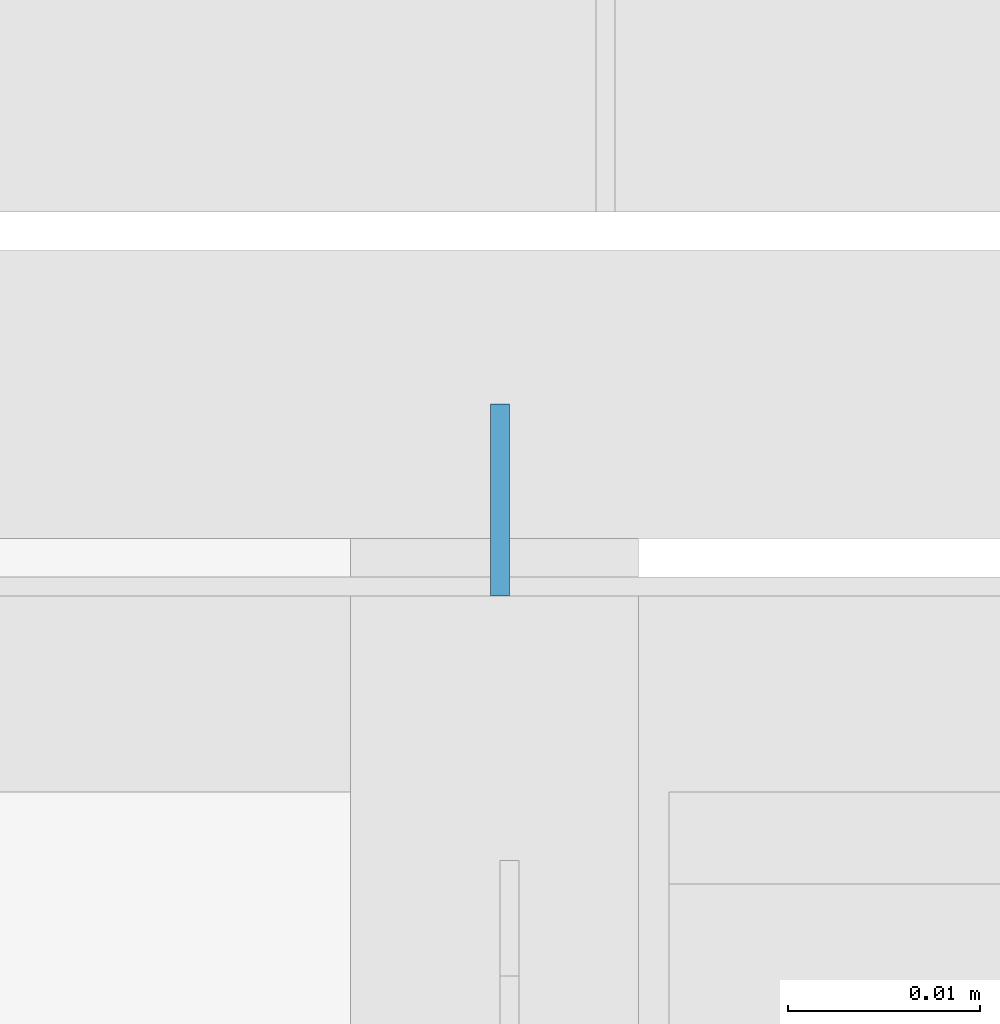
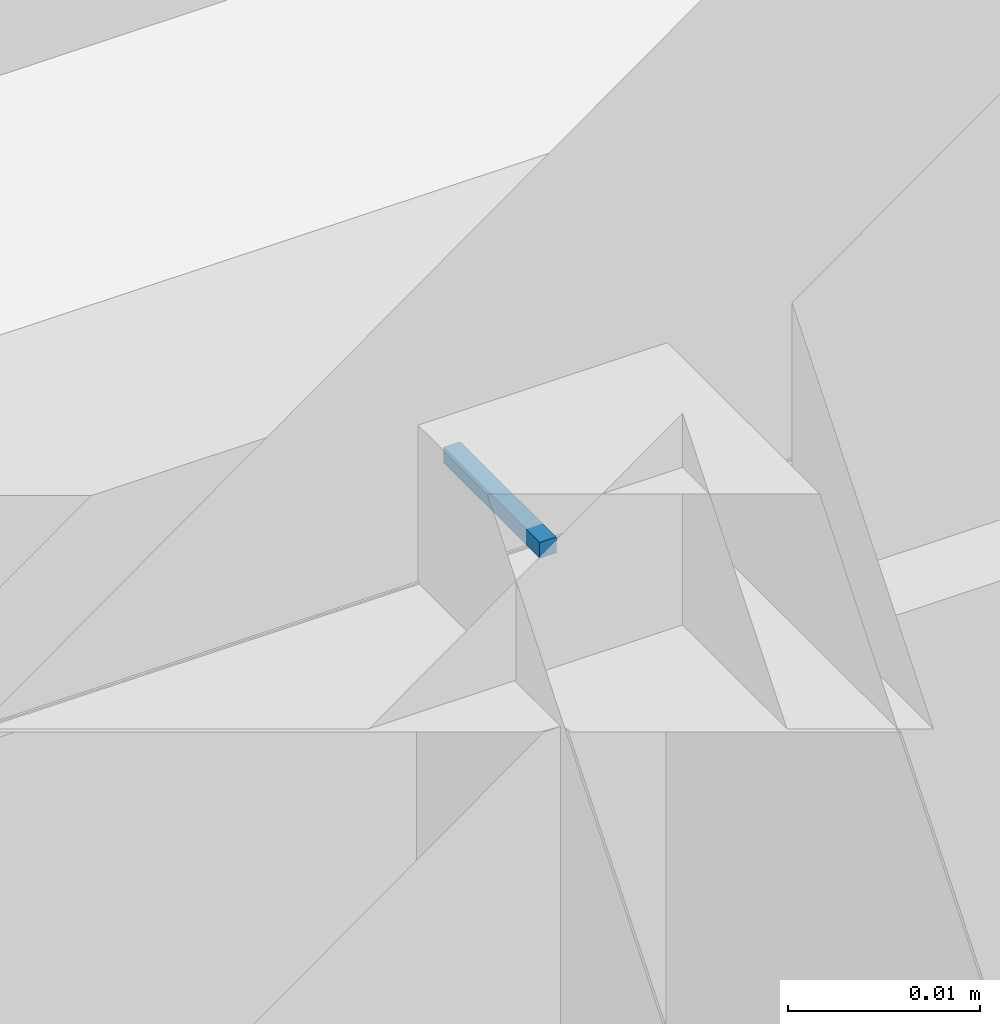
# One storey, part 70 of 186: 1 beam.
"""IFC4X3_ADD2 building model written with IfcOpenShell, lengths in millimetres."""

from ifc_helpers import new_model, si_unit, direction, frame, frame_2d, origin_with_axes, place, context, subcontext, project, spatial, rectangle, extrude, material, element, save


model = new_model("IFC4X3_ADD2")

# Units and contexts
model_context = context("Model", 3, precision=1e-05, world=origin_with_axes(), true_north=direction((0.0, 1.0)))
body_context = subcontext(model_context, "Body", "Model", "MODEL_VIEW")
ifc_project = project(units=[si_unit("LENGTHUNIT", "METRE", prefix="MILLI"), si_unit("AREAUNIT", "SQUARE_METRE"), si_unit("VOLUMEUNIT", "CUBIC_METRE"), si_unit("PLANEANGLEUNIT", "RADIAN"), si_unit("TIMEUNIT", "SECOND"), si_unit("MASSUNIT", "GRAM")], contexts=[model_context])

# Site, building, storey
site_placement = place(None, origin_with_axes())
site = spatial("IfcSite", under=ifc_project, at=site_placement, Name="Site", CompositionType="ELEMENT")
building_placement = place(site_placement, origin_with_axes())
building = spatial("IfcBuilding", under=site, at=building_placement, Name="IFC Building Story")
storey_placement = place(building_placement, frame((0.0, 0.0, 4370.0), z_axis=(0.0, 0.0, 1.0), x_axis=(1.0, 0.0, 0.0)))
storey = spatial("IfcBuildingStorey", under=building, at=storey_placement, Name="ETAGE 10 (1)", Elevation=4370.0)

# Beam
ifc_material = material(Name="STEEL/Accessory_invisible")
beam_placement = place(storey_placement, frame((33400.1905081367, 5.00106811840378, 4079.500419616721), z_axis=(1.0, 0.0, 0.0), x_axis=(0.0, 0.0, -1.0)))
element("IfcBeam", 1, at=beam_placement, inside=storey, material=ifc_material, Name="ZW1", ObjectType="1*1 9", context=body_context, shape_type="SweptSolid", body=[
    extrude(rectangle(XDim=0.9999999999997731, YDim=10.0, at=frame_2d((0.0, 5.95523630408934e-12), x_axis=(1.0, 0.0))), origin_with_axes(), (0.0, 0.0, 1.0), 1.0),
])

save(model, "model.ifc")
